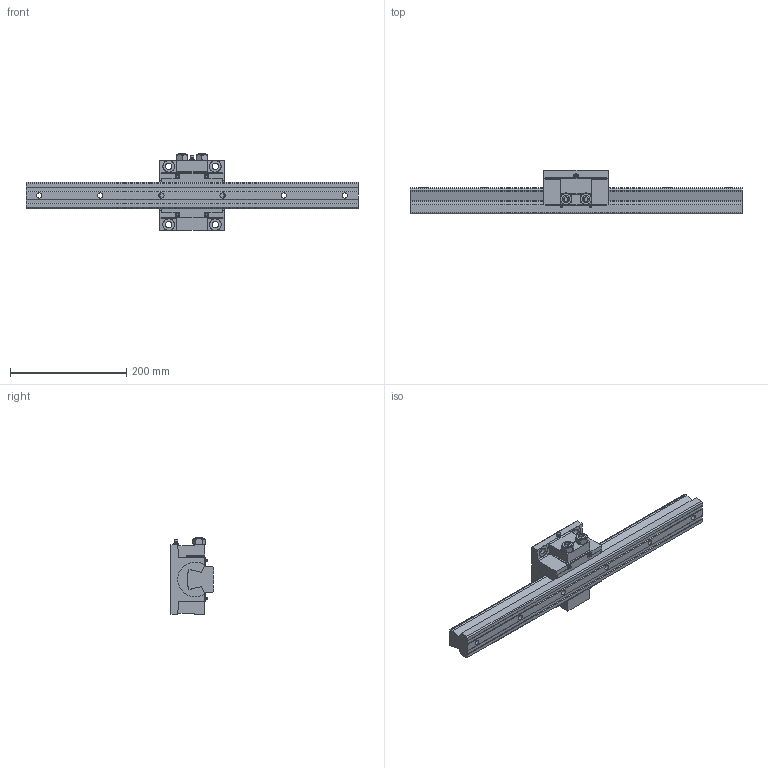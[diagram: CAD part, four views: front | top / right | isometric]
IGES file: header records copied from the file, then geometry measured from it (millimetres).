
Start section: Data from Parasolid IGES Translator 26.0.171, Copyright(c) 2006 Siemens PLM Software. All Rights Reserved.
Global section: file name: NSR40TBC1-570L_G22-5_0_A-M6F_230_0_0_0.igs; native system: By Siemens PLM Incorporated; preprocessor: XPlus GENERIC/IGES 26.0.171; author: Noname; organization: Noname; date: 20240521.121232; units: millimetre
Bounding box: 570 x 75 x 132 mm (x, y, z)
Surface area: 178284.6 mm2 (no closed solid volume)
Topology: 0 solids, 0 shells, 269 faces, 1389 edges, 1331 vertices
Faces by surface type: extrusion 164, revolution 105
